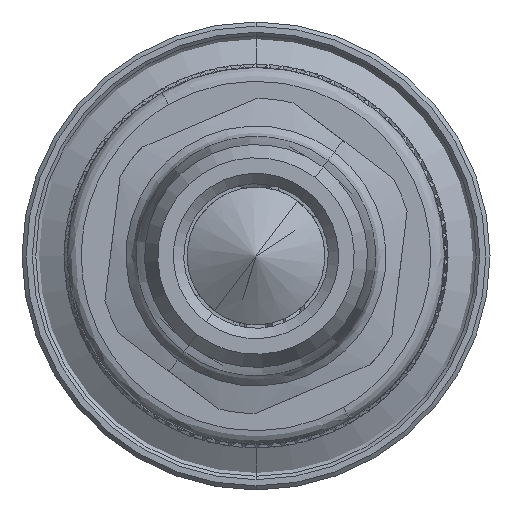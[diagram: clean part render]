
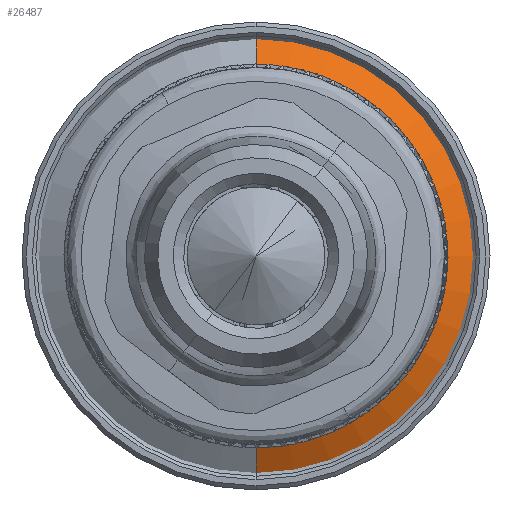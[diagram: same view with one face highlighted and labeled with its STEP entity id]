
A CAD part, front view. The second image highlights one B-rep face of the part: STEP entity #26487.
In plain terms, the highlighted conical face has half-angle 60 degrees and reference radius 16 mm.
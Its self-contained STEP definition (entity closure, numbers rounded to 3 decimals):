
#779 = DIRECTION ( 'NONE',  ( 0., 0., 1. ) ) ;
#1985 = CIRCLE ( 'NONE', #26150, 13.7 ) ;
#4302 = VERTEX_POINT ( 'NONE', #26560 ) ;
#4458 = DIRECTION ( 'NONE',  ( 0., 1., 0. ) ) ;
#5371 = LINE ( 'NONE', #10975, #8525 ) ;
#6350 = VECTOR ( 'NONE', #52822, 1000. ) ;
#8525 = VECTOR ( 'NONE', #25376, 1000. ) ;
#9712 = VERTEX_POINT ( 'NONE', #64059 ) ;
#10975 = CARTESIAN_POINT ( 'NONE',  ( 79.775, 225.843, -16. ) ) ;
#11258 = EDGE_CURVE ( 'NONE', #4302, #51874, #28665, .T. ) ;
#14682 = DIRECTION ( 'NONE',  ( 0., 0., 1. ) ) ;
#14837 = ORIENTED_EDGE ( 'NONE', *, *, #11258, .F. ) ;
#15032 = AXIS2_PLACEMENT_3D ( 'NONE', #44905, #30190, #64800 ) ;
#15112 = CARTESIAN_POINT ( 'NONE',  ( 79.775, 224.515, 13.7 ) ) ;
#16347 = EDGE_LOOP ( 'NONE', ( #53766, #40559, #14837, #24387 ) ) ;
#18137 = CARTESIAN_POINT ( 'NONE',  ( 79.775, 225.843, 16. ) ) ;
#21526 = DIRECTION ( 'NONE',  ( 0., 1., 0. ) ) ;
#22263 = FACE_OUTER_BOUND ( 'NONE', #16347, .T. ) ;
#24387 = ORIENTED_EDGE ( 'NONE', *, *, #57133, .F. ) ;
#25376 = DIRECTION ( 'NONE',  ( 0., 0.5, -0.866 ) ) ;
#26150 = AXIS2_PLACEMENT_3D ( 'NONE', #32308, #21526, #779 ) ;
#26487 = ADVANCED_FACE ( 'NONE', ( #22263 ), #34127, .T. ) ;
#26560 = CARTESIAN_POINT ( 'NONE',  ( 79.775, 225.843, 16. ) ) ;
#28665 = CIRCLE ( 'NONE', #15032, 16. ) ;
#30190 = DIRECTION ( 'NONE',  ( 0., 1., 0. ) ) ;
#32308 = CARTESIAN_POINT ( 'NONE',  ( 79.775, 224.515, 0. ) ) ;
#33042 = CARTESIAN_POINT ( 'NONE',  ( 79.775, 225.843, 0. ) ) ;
#34127 = CONICAL_SURFACE ( 'NONE', #50839, 16., 1.047 ) ;
#34149 = CARTESIAN_POINT ( 'NONE',  ( 79.775, 225.843, -16. ) ) ;
#37829 = LINE ( 'NONE', #18137, #6350 ) ;
#40082 = EDGE_CURVE ( 'NONE', #9712, #51874, #5371, .T. ) ;
#40559 = ORIENTED_EDGE ( 'NONE', *, *, #40082, .T. ) ;
#44905 = CARTESIAN_POINT ( 'NONE',  ( 79.775, 225.843, 0. ) ) ;
#47504 = EDGE_CURVE ( 'NONE', #63716, #9712, #1985, .T. ) ;
#50839 = AXIS2_PLACEMENT_3D ( 'NONE', #33042, #4458, #14682 ) ;
#51874 = VERTEX_POINT ( 'NONE', #34149 ) ;
#52822 = DIRECTION ( 'NONE',  ( 0., 0.5, 0.866 ) ) ;
#53766 = ORIENTED_EDGE ( 'NONE', *, *, #47504, .T. ) ;
#57133 = EDGE_CURVE ( 'NONE', #63716, #4302, #37829, .T. ) ;
#63716 = VERTEX_POINT ( 'NONE', #15112 ) ;
#64059 = CARTESIAN_POINT ( 'NONE',  ( 79.775, 224.515, -13.7 ) ) ;
#64800 = DIRECTION ( 'NONE',  ( 0., 0., 1. ) ) ;
